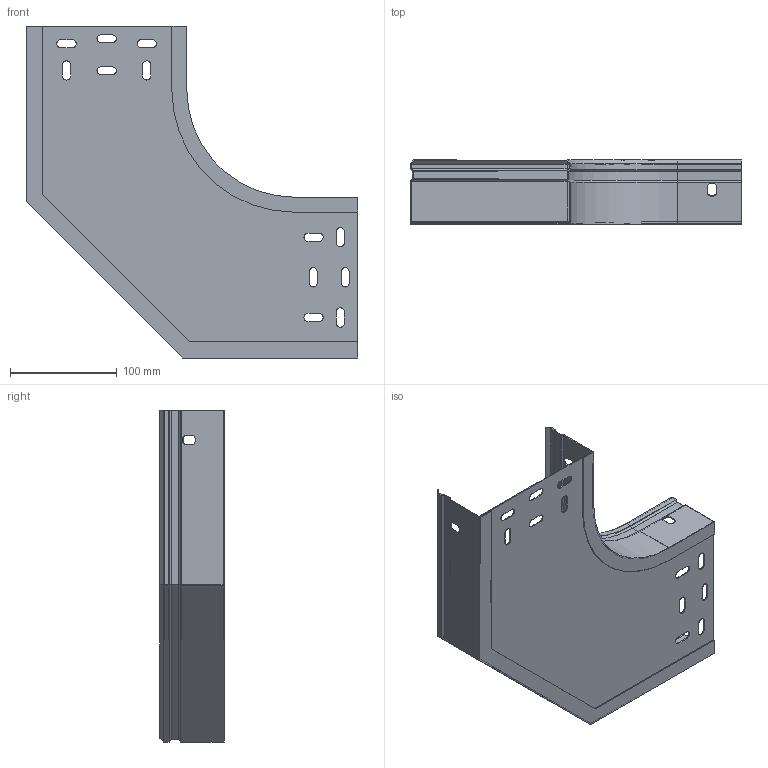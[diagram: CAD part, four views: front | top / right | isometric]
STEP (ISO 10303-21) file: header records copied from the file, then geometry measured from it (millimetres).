
FILE_DESCRIPTION (( 'STEP AP203' ), '1' );
FILE_NAME ('CPERC 150x60.STEP', '2020-02-12T12:30:19', ( '' ), ( '' ), 'SwSTEP 2.0', 'SolidWorks 2019', '' );
FILE_SCHEMA (( 'CONFIG_CONTROL_DESIGN' ));
Length unit declared in the file: millimetre
Products named in the file (4): ERE_LATERAL EXT CP_150 x 60; ERE_LATERAL INT CP_60; CPERC 150x60; ERE_BASE CP_150
Assembly tree (3 placements, depth 2):
  CPERC 150x60
    ERE_BASE CP_150
    ERE_LATERAL INT CP_60
    ERE_LATERAL EXT CP_150 x 60
Bounding box: 310.37 x 60 x 310.37 mm (x, y, z)
Volume: 121200.4 mm3; surface area: 246110.5 mm2
Topology: 3 solids, 3 shells, 172 faces, 450 edges, 284 vertices
Faces by surface type: plane 119, cylinder 46, cone 7
Entity records: 5682 total; most frequent: CARTESIAN_POINT 912, DIRECTION 900, ORIENTED_EDGE 900, EDGE_CURVE 450, VECTOR 356, LINE 356, VERTEX_POINT 284, AXIS2_PLACEMENT_3D 272
